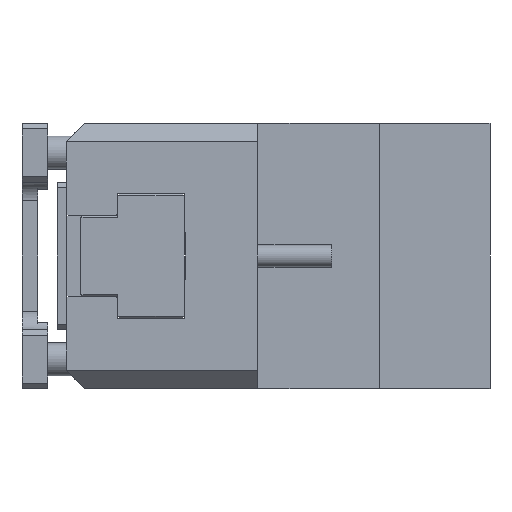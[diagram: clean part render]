
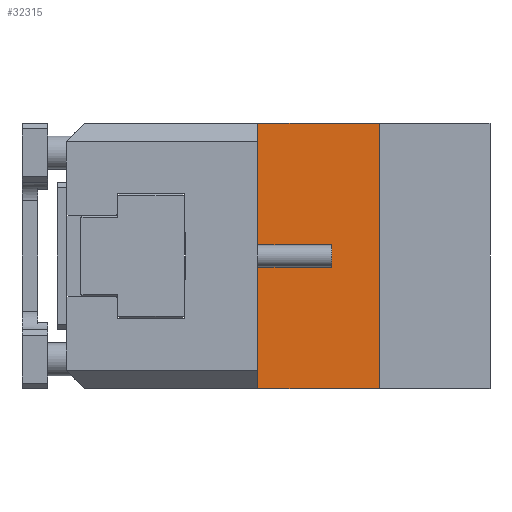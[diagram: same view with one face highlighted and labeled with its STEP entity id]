
A CAD part, left-side view. The second image highlights one B-rep face of the part: STEP entity #32315.
In plain terms, the highlighted planar face has unit normal (-1, 0, 0).
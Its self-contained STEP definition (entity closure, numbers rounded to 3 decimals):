
#522 = CARTESIAN_POINT ( 'NONE',  ( -125., 0., 72. ) ) ;
#1632 = DIRECTION ( 'NONE',  ( 0., 0., -1. ) ) ;
#2645 = ORIENTED_EDGE ( 'NONE', *, *, #45080, .F. ) ;
#4620 = DIRECTION ( 'NONE',  ( 0., 0., 1. ) ) ;
#5132 = LINE ( 'NONE', #522, #45696 ) ;
#6276 = CARTESIAN_POINT ( 'NONE',  ( -125., 0., -72. ) ) ;
#8762 = EDGE_LOOP ( 'NONE', ( #15824, #2645, #48986, #18267 ) ) ;
#10345 = DIRECTION ( 'NONE',  ( 0., -1., 0. ) ) ;
#10555 = CARTESIAN_POINT ( 'NONE',  ( -125., 66., 72. ) ) ;
#11333 = CARTESIAN_POINT ( 'NONE',  ( -125., 66., -72. ) ) ;
#14652 = DIRECTION ( 'NONE',  ( 0., 0., -1. ) ) ;
#15824 = ORIENTED_EDGE ( 'NONE', *, *, #45353, .T. ) ;
#17578 = VERTEX_POINT ( 'NONE', #40639 ) ;
#18267 = ORIENTED_EDGE ( 'NONE', *, *, #46762, .T. ) ;
#20045 = FACE_OUTER_BOUND ( 'NONE', #8762, .T. ) ;
#21038 = LINE ( 'NONE', #38686, #22342 ) ;
#21872 = CARTESIAN_POINT ( 'NONE',  ( -125., 66., 72. ) ) ;
#22342 = VECTOR ( 'NONE', #10345, 1000. ) ;
#22799 = LINE ( 'NONE', #10555, #32233 ) ;
#23017 = VERTEX_POINT ( 'NONE', #32633 ) ;
#23468 = VECTOR ( 'NONE', #47837, 1000. ) ;
#25926 = DIRECTION ( 'NONE',  ( 1., 0., 0. ) ) ;
#28197 = CARTESIAN_POINT ( 'NONE',  ( -125., 66., 72. ) ) ;
#28893 = VERTEX_POINT ( 'NONE', #6276 ) ;
#32233 = VECTOR ( 'NONE', #14652, 1000. ) ;
#32315 = ADVANCED_FACE ( 'NONE', ( #20045 ), #37956, .F. ) ;
#32633 = CARTESIAN_POINT ( 'NONE',  ( -125., 0., 72. ) ) ;
#37956 = PLANE ( 'NONE',  #42796 ) ;
#38686 = CARTESIAN_POINT ( 'NONE',  ( -125., 66., 72. ) ) ;
#40639 = CARTESIAN_POINT ( 'NONE',  ( -125., 66., -72. ) ) ;
#42796 = AXIS2_PLACEMENT_3D ( 'NONE', #21872, #25926, #1632 ) ;
#44989 = LINE ( 'NONE', #11333, #23468 ) ;
#45080 = EDGE_CURVE ( 'NONE', #45327, #23017, #21038, .T. ) ;
#45327 = VERTEX_POINT ( 'NONE', #28197 ) ;
#45353 = EDGE_CURVE ( 'NONE', #28893, #23017, #5132, .T. ) ;
#45696 = VECTOR ( 'NONE', #4620, 1000. ) ;
#46762 = EDGE_CURVE ( 'NONE', #17578, #28893, #44989, .T. ) ;
#47837 = DIRECTION ( 'NONE',  ( 0., -1., 0. ) ) ;
#48986 = ORIENTED_EDGE ( 'NONE', *, *, #49392, .T. ) ;
#49392 = EDGE_CURVE ( 'NONE', #45327, #17578, #22799, .T. ) ;
